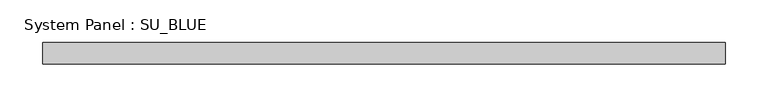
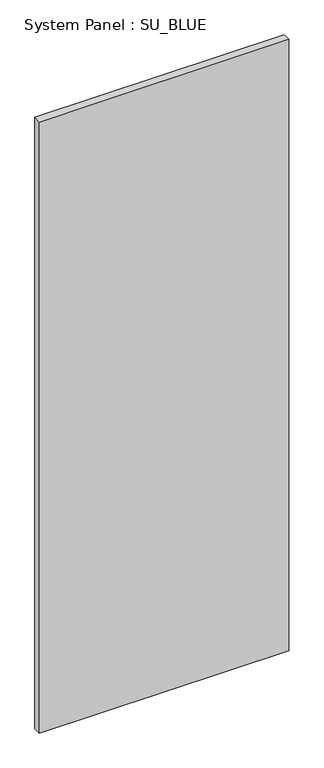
"""IFC4 building model written with IfcOpenShell, lengths in millimetres: plate geometry, System Panel : SU_BLUE."""

from ifc_helpers import new_model, si_unit, origin, origin_with_axes, place, context, project, spatial, polyline, outline, extrude, source, transform, mapped, element, save


def system_panel_su_blue_b2b39788(model_context):
    return source(origin(), model_context, "Body", "SweptSolid", [
        extrude(outline(polyline([(399.4846123, 19.05), (-399.4846123, 19.05), (-399.4846123, 44.45), (399.4846123, 44.45), (399.4846123, 19.05)])), origin_with_axes(), (0.0, 0.0, 1.0), 2070.1),
    ])


if __name__ == "__main__":
    model = new_model("IFC4")
    model_context = context("Model", 3, world=origin())
    ifc_project = project(units=[si_unit("LENGTHUNIT", "METRE", prefix="MILLI")], contexts=[model_context])
    site = spatial("IfcSite", under=ifc_project)
    building = spatial("IfcBuilding", under=site)
    placement = place(None, origin())
    system_panel_su_blue_shape = system_panel_su_blue_b2b39788(model_context)
    element("IfcPlate", 1, ObjectType="System Panel : SU_BLUE", at=placement, inside=building, context=model_context, shape_type="MappedRepresentation", body=[
        mapped(system_panel_su_blue_shape, transform((0.0, 0.0, 0.0), x_axis=(1.0, 0.0, 0.0), y_axis=(0.0, 1.0, 0.0), z_axis=(0.0, 0.0, 1.0))),
    ])
    save(model, "model.ifc")
